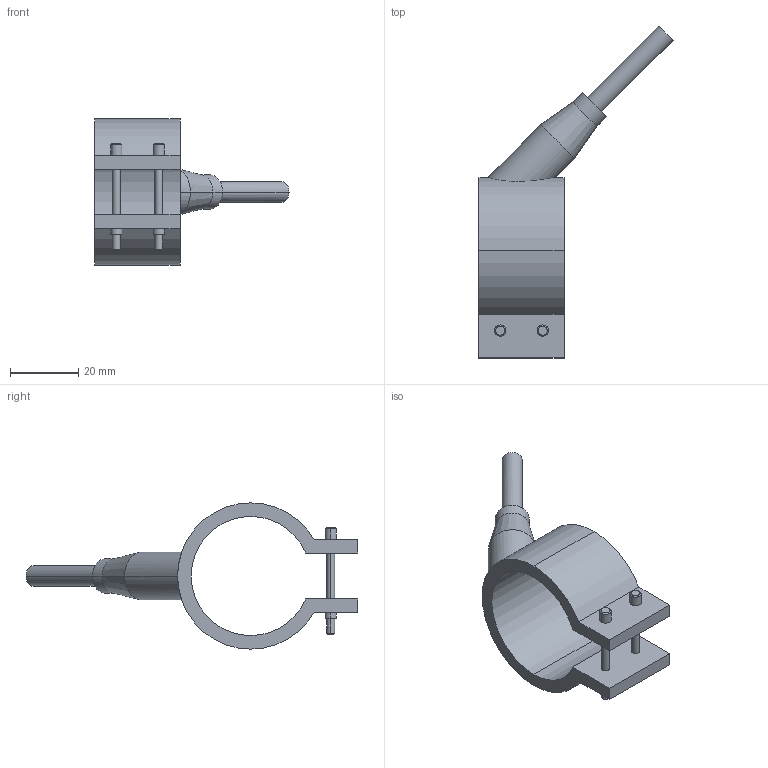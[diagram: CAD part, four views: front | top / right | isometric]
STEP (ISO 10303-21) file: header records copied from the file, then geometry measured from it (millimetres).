
FILE_DESCRIPTION(('CATIA V5 STEP Exchange'),'2;1');
FILE_NAME('C:\Users\Utente\Desktop\IO LAVORO\3D X SITO CF\X SITO\PLASTICA\RF1\29035025.stp','2021-03-27T09:05:17+00:00',('none'),('none'),'CATIA Version 5 Release 20 GA (IN-10)','CATIA V5 STEP AP203','none');
FILE_SCHEMA(('CONFIG_CONTROL_DESIGN'));
Length unit declared in the file: millimetre
Products named in the file (1): 29035025
Bounding box: 57.05 x 97.55 x 43 mm (x, y, z)
Volume: 18319.5 mm3; surface area: 9914.1 mm2
Topology: 1 solids, 1 shells, 54 faces, 123 edges, 79 vertices
Faces by surface type: cylinder 28, plane 16, cone 10
Entity records: 1740 total; most frequent: CARTESIAN_POINT 504, ORIENTED_EDGE 246, DIRECTION 215, EDGE_CURVE 123, AXIS2_PLACEMENT_3D 108, VERTEX_POINT 79, EDGE_LOOP 66, VECTOR 56
